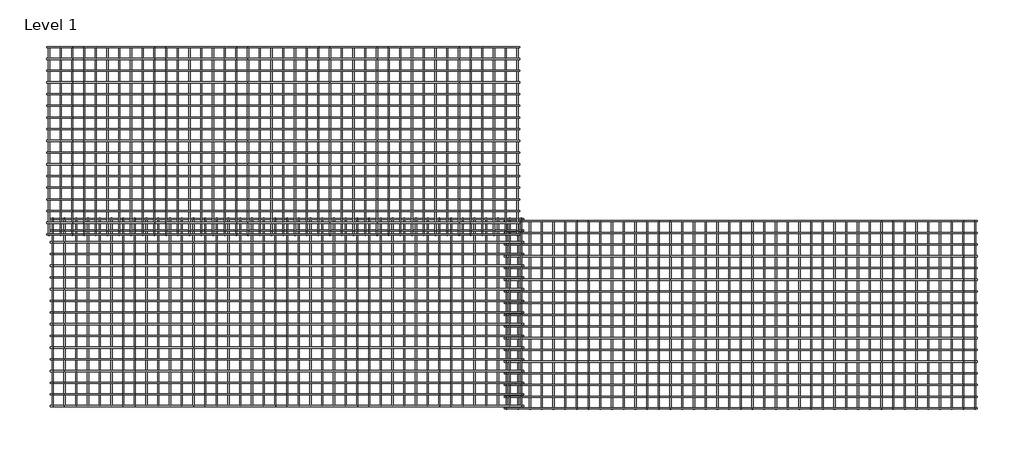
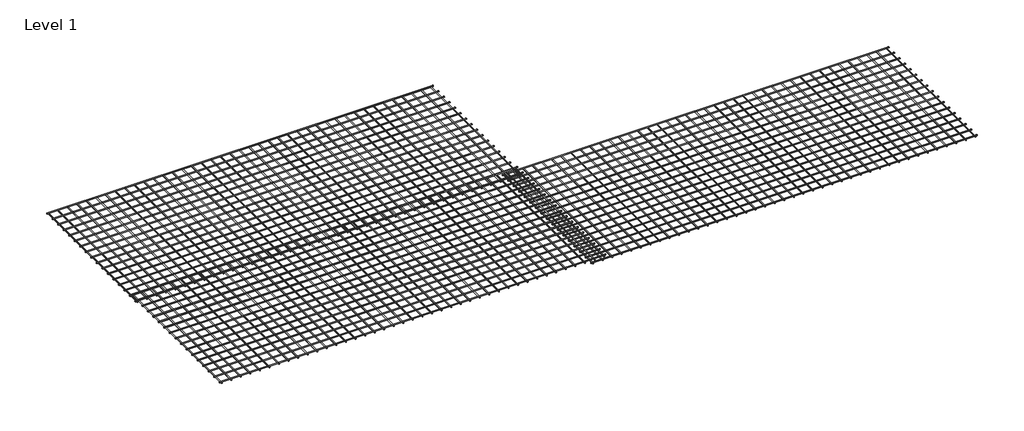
# One storey: 3 proxies.
"""IFC4 building model written with IfcOpenShell, lengths in millimetres."""

from ifc_helpers import new_model, si_unit, origin, place, context, project, spatial, transform, mapped, element, save
from components import united_steel_661_large_mesh_united_steel_661_large_mesh_0b2a143a

model = new_model("IFC4")

# Units and contexts
model_context = context("Model", 3, world=origin())
ifc_project = project(units=[si_unit("LENGTHUNIT", "METRE", prefix="MILLI")], contexts=[model_context])

# Site, building, storey
site = spatial("IfcSite", under=ifc_project)
building = spatial("IfcBuilding", under=site)
storey = spatial("IfcBuildingStorey", under=building, Name="Level 1", Elevation=0.0)

# Proxies
placement = place(None, origin())
united_steel_661_large_mesh_united_steel_661_large_mesh_shape = united_steel_661_large_mesh_united_steel_661_large_mesh_0b2a143a(model_context)
element("IfcBuildingElementProxy", 1, Name="United Steel 661 Large Mesh : United Steel 661 Large Mesh", ObjectType="United Steel 661 Large Mesh : United Steel 661 Large Mesh", at=placement, inside=storey, context=model_context, shape_type="MappedRepresentation", body=[
    mapped(united_steel_661_large_mesh_united_steel_661_large_mesh_shape, transform((5536.2856589, 2171.3157499, 93.125), x_axis=(1.0, 0.0, 0.0), y_axis=(0.0, 1.0, 0.0), z_axis=(0.0, 0.0, 1.0))),
])
element("IfcBuildingElementProxy", 2, Name="United Steel 661 Large Mesh : United Steel 661 Large Mesh", ObjectType="United Steel 661 Large Mesh : United Steel 661 Large Mesh", at=placement, inside=storey, context=model_context, shape_type="MappedRepresentation", body=[
    mapped(united_steel_661_large_mesh_united_steel_661_large_mesh_shape, transform((5486.2856589, 4371.2261808, 123.046875), x_axis=(1.0, 0.0, 0.0), y_axis=(0.0, 1.0, 0.0), z_axis=(0.0, 0.0, 1.0))),
])
element("IfcBuildingElementProxy", 3, Name="United Steel 661 Large Mesh : United Steel 661 Large Mesh", ObjectType="United Steel 661 Large Mesh : United Steel 661 Large Mesh", at=placement, inside=storey, context=model_context, shape_type="MappedRepresentation", body=[
    mapped(united_steel_661_large_mesh_united_steel_661_large_mesh_shape, transform((11346.1955059, 2142.5757703, 63.1835938), x_axis=(1.0, 0.0, 0.0), y_axis=(0.0, 1.0, 0.0), z_axis=(0.0, 0.0, 1.0))),
])

save(model, "model.ifc")
